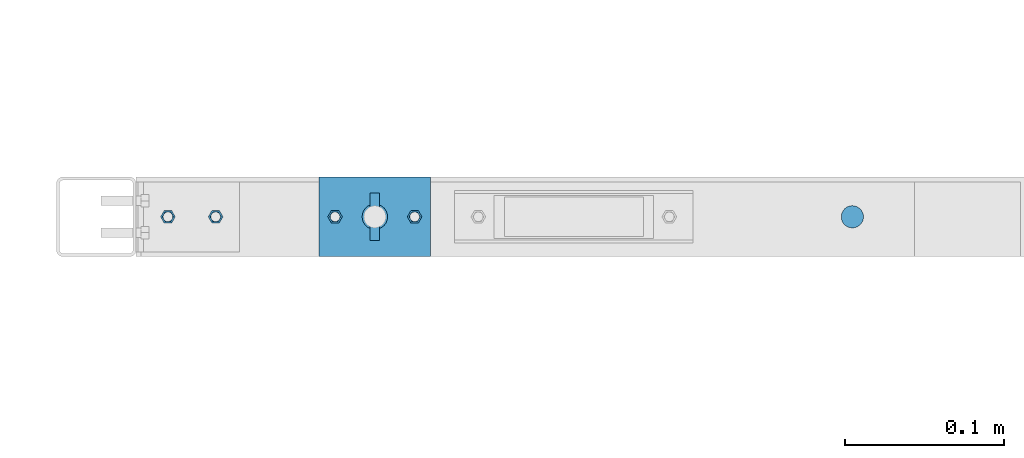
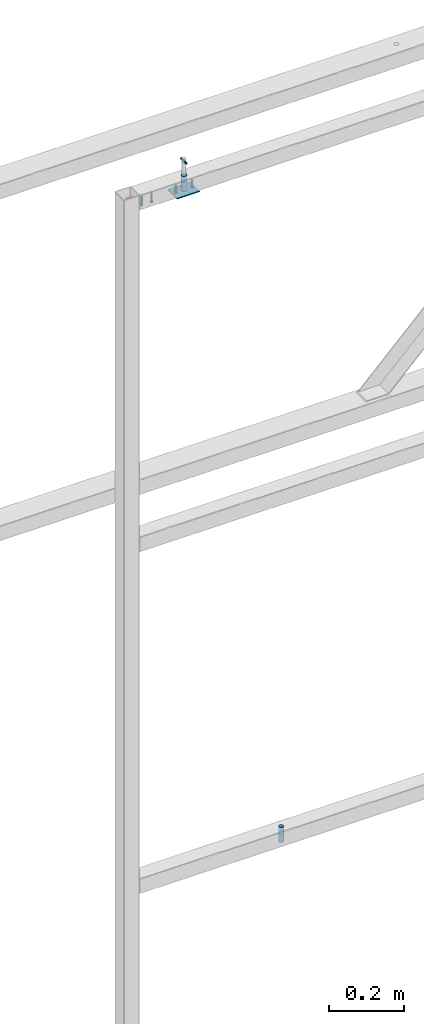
# One storey, part 56 of 91: 5 mechanical fasteners, 2 discrete accessories, 1 element without a shape of its own.
"""IFC2X3 building model written with IfcOpenShell, lengths in millimetres."""

from ifc_helpers import new_model, si_unit, frame, origin_with_axes, origin_2d_with_axis, place, context, subcontext, project, spatial, polyline, circle, outline, extrude, source, transform, mapped, material, type_object, element, aggregate, save


model = new_model("IFC2X3")

# Units and contexts
model_context = context("Model", 3, precision=1e-05, world=origin_with_axes())
body_context = subcontext(model_context, "Body", "Model", "MODEL_VIEW")
ifc_project = project(units=[si_unit("LENGTHUNIT", "METRE", prefix="MILLI"), si_unit("AREAUNIT", "SQUARE_METRE"), si_unit("VOLUMEUNIT", "CUBIC_METRE"), si_unit("MASSUNIT", "GRAM", prefix="KILO"), si_unit("TIMEUNIT", "SECOND"), si_unit("PLANEANGLEUNIT", "RADIAN"), si_unit("SOLIDANGLEUNIT", "STERADIAN"), si_unit("THERMODYNAMICTEMPERATUREUNIT", "DEGREE_CELSIUS"), si_unit("LUMINOUSINTENSITYUNIT", "LUMEN")], contexts=[model_context])

# Site, building, storey
site_placement = place(None, origin_with_axes())
site = spatial("IfcSite", under=ifc_project, at=site_placement, Name="Undefined", CompositionType="ELEMENT")
building_placement = place(site_placement, origin_with_axes())
building = spatial("IfcBuilding", under=site, at=building_placement, Name="Undefined", CompositionType="ELEMENT")
storey_placement = place(building_placement, origin_with_axes())
storey = spatial("IfcBuildingStorey", under=building, at=storey_placement, Name="Undefined", CompositionType="ELEMENT", Elevation=0.0)

# Assembly, mechanical fasteners, discrete accessories
assembly_placement = place(storey_placement, origin_with_axes())
assembly = element("IfcElementAssembly", 1, at=assembly_placement, inside=storey, Name="Sliding Door Beam", AssemblyPlace="NOTDEFINED", PredefinedType="RIGID_FRAME")
ifc_material_1 = material(Name="TEK_11TPIM")
discrete_accessory_type_1 = type_object("IfcDiscreteAccessoryType", Name="Bolt assembly")
shared_shape_1 = source(origin_with_axes(), body_context, "Body", "SweptSolid", [
    extrude(circle(Radius=3.0, at=origin_2d_with_axis()), frame((0.0, 0.1, 0.0), z_axis=(0.0, 1.0, 0.0), x_axis=(1.0, 0.0, 0.0)), (0.0, 0.0, 1.0), 2.0),
    extrude(circle(Radius=3.0, at=origin_2d_with_axis()), frame((0.0, 2.90000000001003, 0.0), z_axis=(0.0, 1.0, 0.0), x_axis=(1.0, 0.0, 0.0)), (0.0, 0.0, 1.0), 3.1),
    extrude(outline(polyline([(4.61880215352, 0.0), (2.30940107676, 4.00000000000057), (-2.30940107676, 4.00000000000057), (-4.61880215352, 0.0), (-2.30940107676, -4.00000000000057), (2.30940107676, -4.00000000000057), (4.61880215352, 0.0)])), frame((0.0, -5.0, 0.0), z_axis=(0.0, 1.0, 0.0), x_axis=(1.0, 0.0, 0.0)), (0.0, 0.0, 1.0), 5.0),
    extrude(circle(Radius=3.0, at=origin_2d_with_axis()), frame((0.0, 0.0, 0.0), z_axis=(0.0, 1.0, 0.0), x_axis=(1.0, 0.0, 0.0)), (0.0, 0.0, 1.0), 25.0),
    extrude(circle(Radius=3.0, at=origin_2d_with_axis()), frame((0.0, 6.00000000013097, 0.0), z_axis=(0.0, 1.0, 0.0), x_axis=(1.0, 0.0, 0.0)), (0.0, 0.0, 1.0), 0.1),
    extrude(outline(polyline([(3.46410161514, 0.0), (1.73205080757, 3.00000000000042), (-1.73205080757, 3.00000000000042), (-3.46410161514, 0.0), (-1.73205080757, -3.00000000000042), (1.73205080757, -3.00000000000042), (3.46410161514, 0.0)])), frame((0.0, 6.10000000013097, 0.0), z_axis=(0.0, 1.0, 0.0), x_axis=(1.0, 0.0, 0.0)), (0.0, 0.0, 1.0), 0.1),
])
mechanical_fastener_1_placement = place(assembly_placement, frame((-113568.79, 90380.0, 3326.0), z_axis=(0.0, -1.0, 0.0), x_axis=(1.0, 0.0, 0.0)))
mechanical_fastener_1 = element("IfcMechanicalFastener", 2, at=mechanical_fastener_1_placement, type_object=discrete_accessory_type_1, material=ifc_material_1, Name="Bolt assembly", NominalDiameter=6.0, NominalLength=25.0, context=body_context, shape_type="MappedRepresentation", body=[
    mapped(shared_shape_1, transform((0.0, 0.0, 0.0))),
    mapped(shared_shape_1, transform((30.0, 0.0, 0.0))),
])
ifc_material_2 = material(Name="STEEL/250")
discrete_accessory_type_2 = type_object("IfcDiscreteAccessoryType", Name="PLATE")
discrete_accessory_1_placement = place(assembly_placement, frame((-113473.79, 90405.0, 3324.5), z_axis=(0.0, 0.0, 1.0), x_axis=(0.0, -1.0, 0.0)))
discrete_accessory_1 = element("IfcDiscreteAccessory", 3, at=discrete_accessory_1_placement, type_object=discrete_accessory_type_2, material=ifc_material_2, Name="PLATE", ObjectType="PLT3*50", context=body_context, shape_type="SweptSolid", body=[
    extrude(outline(polyline([(0.0, 0.0), (50.0, 0.0), (50.0, 70.0), (0.0, 70.0), (0.0, 0.0)])), frame((0.0, 0.0, -1.5), z_axis=(0.0, 0.0, 1.0), x_axis=(1.0, 0.0, 0.0)), (0.0, 0.0, 1.0), 3.0),
])
ifc_material_3 = material(Name="8.8S")
shared_shape_2 = source(origin_with_axes(), body_context, "Body", "SweptSolid", [
    extrude(circle(Radius=7.0, at=origin_2d_with_axis()), frame((0.0, 0.0033333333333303, 0.0), z_axis=(0.0, 1.0, 0.0), x_axis=(1.0, 0.0, 0.0)), (0.0, 0.0, 1.0), 50.1),
])
mechanical_fastener_2_placement = place(assembly_placement, frame((-113138.786232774, 90380.0, 1147.34), z_axis=(1.0, 0.0, 0.0), x_axis=(0.0, -1.0, 0.0)))
mechanical_fastener_2 = element("IfcMechanicalFastener", 4, at=mechanical_fastener_2_placement, type_object=discrete_accessory_type_1, material=ifc_material_3, Name="Bolt assembly", NominalDiameter=12.0, NominalLength=49.9966659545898, context=body_context, shape_type="MappedRepresentation", body=[
    mapped(shared_shape_2, transform((0.0, 0.0, 0.0))),
])
shared_shape_3 = source(origin_with_axes(), body_context, "Body", "SweptSolid", [
    extrude(circle(Radius=3.0, at=origin_2d_with_axis()), frame((0.0, 0.0, 0.0), z_axis=(0.0, 1.0, 0.0), x_axis=(1.0, 0.0, 0.0)), (0.0, 0.0, 1.0), 2.1),
    extrude(outline(polyline([(4.61880215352, 0.0), (2.30940107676, 4.00000000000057), (-2.30940107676, 4.00000000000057), (-4.61880215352, 0.0), (-2.30940107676, -4.00000000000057), (2.30940107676, -4.00000000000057), (4.61880215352, 0.0)])), frame((0.0, -5.0, 0.0), z_axis=(0.0, 1.0, 0.0), x_axis=(1.0, 0.0, 0.0)), (0.0, 0.0, 1.0), 5.0),
    extrude(circle(Radius=3.0, at=origin_2d_with_axis()), frame((0.0, 0.0, 0.0), z_axis=(0.0, 1.0, 0.0), x_axis=(1.0, 0.0, 0.0)), (0.0, 0.0, 1.0), 25.0),
    extrude(circle(Radius=3.0, at=origin_2d_with_axis()), frame((0.0, 2.00000000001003, 0.0), z_axis=(0.0, 1.0, 0.0), x_axis=(1.0, 0.0, 0.0)), (0.0, 0.0, 1.0), 0.1),
    extrude(outline(polyline([(3.46410161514, 0.0), (1.73205080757, 3.00000000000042), (-1.73205080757, 3.00000000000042), (-3.46410161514, 0.0), (-1.73205080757, -3.00000000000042), (1.73205080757, -3.00000000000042), (3.46410161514, 0.0)])), frame((0.0, 2.10000000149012, 0.0), z_axis=(0.0, 1.0, 0.0), x_axis=(1.0, 0.0, 0.0)), (0.0, 0.0, 1.0), 0.1),
])
mechanical_fastener_3_placement = place(assembly_placement, frame((-113413.79, 90380.0, 3326.0), z_axis=(0.0, 1.0, 0.0), x_axis=(-1.0, 0.0, 0.0)))
mechanical_fastener_3 = element("IfcMechanicalFastener", 5, at=mechanical_fastener_3_placement, type_object=discrete_accessory_type_1, material=ifc_material_1, Name="Bolt assembly", NominalDiameter=6.0, NominalLength=25.0, context=body_context, shape_type="MappedRepresentation", body=[
    mapped(shared_shape_3, transform((0.0, 0.0, 0.0))),
])
mechanical_fastener_4_placement = place(assembly_placement, frame((-113463.79, 90380.0, 3326.0), z_axis=(0.0, -1.0, 0.0), x_axis=(1.0, 0.0, 0.0)))
mechanical_fastener_4 = element("IfcMechanicalFastener", 6, at=mechanical_fastener_4_placement, type_object=discrete_accessory_type_1, material=ifc_material_1, Name="Bolt assembly", NominalDiameter=6.0, NominalLength=25.0, context=body_context, shape_type="MappedRepresentation", body=[
    mapped(shared_shape_3, transform((0.0, 0.0, 0.0))),
])
shared_shape_4 = source(origin_with_axes(), body_context, "Body", "SweptSolid", [
    extrude(circle(Radius=8.0, at=origin_2d_with_axis()), frame((0.0, 0.0, 0.0), z_axis=(0.0, 1.0, 0.0), x_axis=(1.0, 0.0, 0.0)), (0.0, 0.0, 1.0), 50.1),
])
mechanical_fastener_5_placement = place(assembly_placement, frame((-113438.79, 90380.0, 3326.0), z_axis=(0.0, -1.0, 0.0), x_axis=(1.0, 0.0, 0.0)))
mechanical_fastener_5 = element("IfcMechanicalFastener", 7, at=mechanical_fastener_5_placement, type_object=discrete_accessory_type_1, material=ifc_material_3, Name="Bolt assembly", NominalDiameter=10.0, NominalLength=50.0, context=body_context, shape_type="MappedRepresentation", body=[
    mapped(shared_shape_4, transform((0.0, 0.0, 0.0))),
])
discrete_accessory_type_3 = type_object("IfcDiscreteAccessoryType", Name="SPRING PIN")
discrete_accessory_2_placement = place(assembly_placement, frame((-113438.79, 90365.0, 3421.0), z_axis=(1.0, 0.0, 0.0), x_axis=(0.0, 1.0, 0.0)))
discrete_accessory_2 = element("IfcDiscreteAccessory", 8, at=discrete_accessory_2_placement, type_object=discrete_accessory_type_3, material=ifc_material_2, Name="SPRING PIN", ObjectType="D6", context=body_context, shape_type="SweptSolid", body=[
    extrude(circle(Radius=3.0, at=origin_2d_with_axis()), frame((30.0, 0.0, 0.0), z_axis=(-1.0, 0.0, 0.0), x_axis=(0.0, -1.0, 0.0)), (0.0, 0.0, 1.0), 30.0),
])
aggregate(assembly, [mechanical_fastener_2, mechanical_fastener_3, mechanical_fastener_4, mechanical_fastener_5, mechanical_fastener_1, discrete_accessory_2, discrete_accessory_1])

save(model, "model.ifc")
